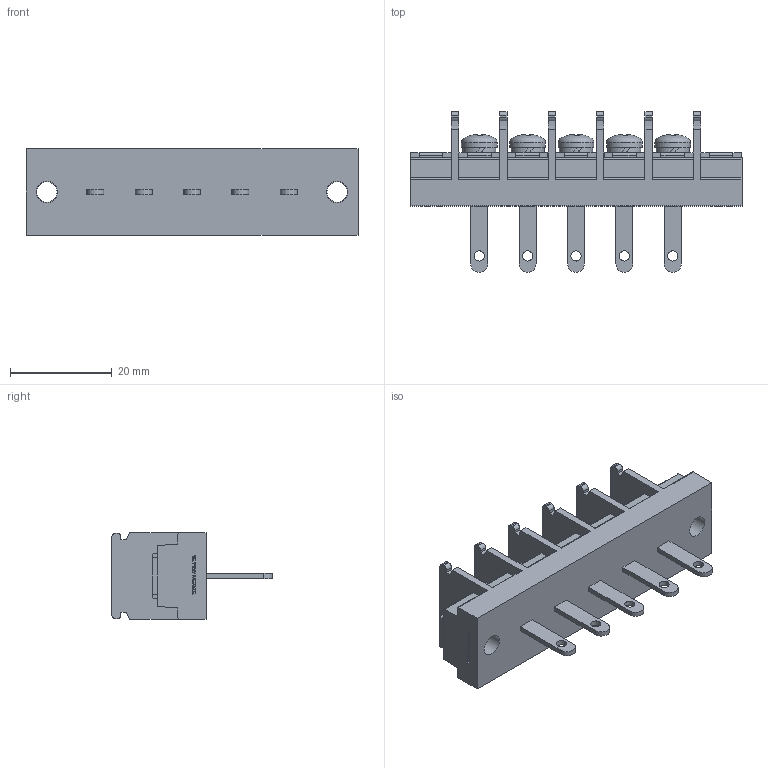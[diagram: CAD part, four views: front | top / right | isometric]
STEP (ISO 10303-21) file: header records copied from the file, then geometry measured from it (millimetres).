
FILE_DESCRIPTION(/* description */ ('Alibre Inc.'),/* implementation_level */ '2;1');
FILE_NAME(/* name */ 'export-4C100917-FC1A-4257-B24F-9ACECA13772C',/* time_stamp */ '2020-11-07T15:35:58+09:00',/* author */ (''),/* organization */ (''),/* preprocessor_version */ 'ST-DEVELOPER v17',/* originating_system */ 'Alibre',/* authorisation */ '');
FILE_SCHEMA (('CONFIG_CONTROL_DESIGN'));
Length unit declared in the file: millimetre
Bounding box: 65.2 x 31.5 x 17 mm (x, y, z)
Volume: 11449.7 mm3; surface area: 7813.6 mm2
Topology: 1 solids, 6 shells, 870 faces, 2379 edges, 1580 vertices
Faces by surface type: plane 626, bspline 104, cylinder 100, cone 25, torus 10, sphere 5
Full cylindrical faces by diameter (mm): 2 x5, 4 x12, 4.2 x2, 6.5 x5, 7 x5
Entity records: 26379 total; most frequent: CARTESIAN_POINT 5769, ORIENTED_EDGE 4626, DIRECTION 3273, EDGE_CURVE 2313, VECTOR 1660, LINE 1660, VERTEX_POINT 1553, AXIS2_PLACEMENT_3D 1108
